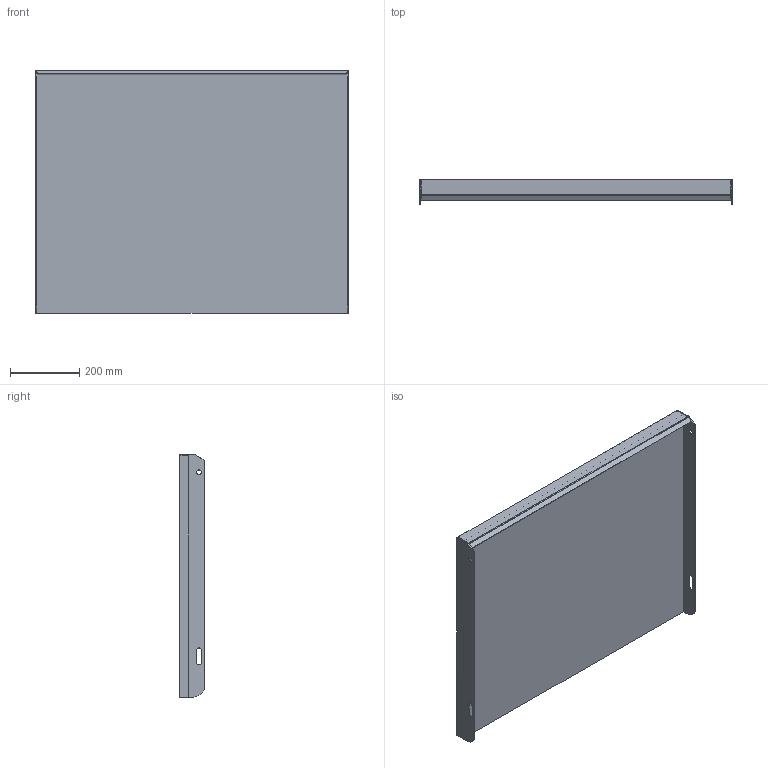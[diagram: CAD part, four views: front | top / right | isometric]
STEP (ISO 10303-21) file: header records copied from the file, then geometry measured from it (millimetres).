
FILE_DESCRIPTION (( 'STEP AP203' ), '1' );
FILE_NAME ('148809071, Plan TH6, 900x700, vfz.STEP', '2020-10-21T13:36:07', ( '' ), ( '' ), 'SwSTEP 2.0', 'SolidWorks 2019', '' );
FILE_SCHEMA (( 'CONFIG_CONTROL_DESIGN' ));
Length unit declared in the file: millimetre
Products named in the file (4): SW0000041386; 148809071, Plan TH6, 900x700, vfz; SW0000041483; SW0000041838
Assembly tree (4 placements, depth 2):
  148809071, Plan TH6, 900x700, vfz
    SW0000041838
    SW0000041386  x2
    SW0000041483
Bounding box: 900 x 70 x 697 mm (x, y, z)
Volume: 15955471.5 mm3; surface area: 1634125.3 mm2
Topology: 4 solids, 4 shells, 59 faces, 142 edges, 92 vertices
Faces by surface type: plane 45, cylinder 14
Entity records: 1693 total; most frequent: DIRECTION 221, CARTESIAN_POINT 220, ORIENTED_EDGE 206, EDGE_CURVE 103, VECTOR 87, LINE 87, AXIS2_PLACEMENT_3D 67, VERTEX_POINT 66
